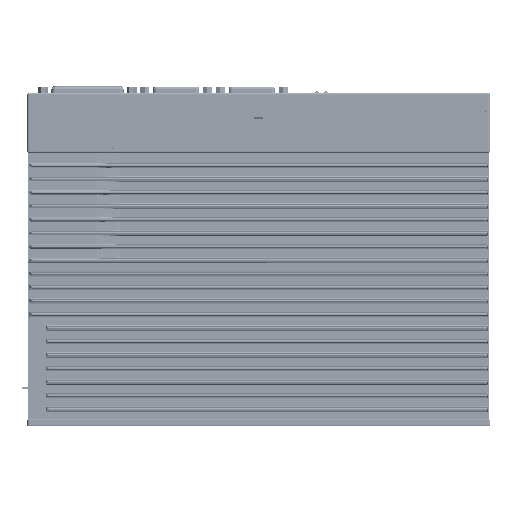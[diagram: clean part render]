
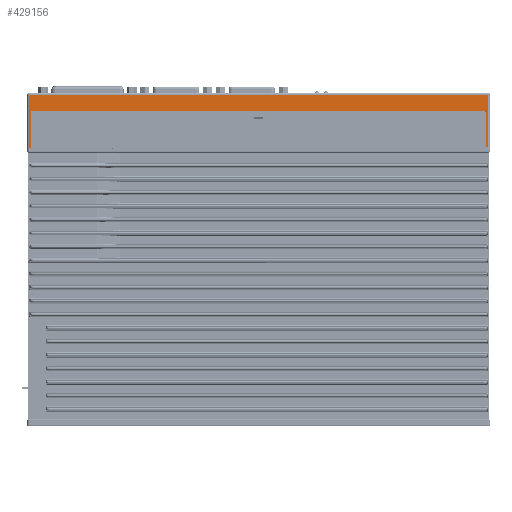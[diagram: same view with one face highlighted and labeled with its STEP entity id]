
A CAD part, front view. The second image highlights one B-rep face of the part: STEP entity #429156.
In plain terms, the highlighted planar face has unit normal (0, -1, 0) as drawn and (1, 0, 0) by its records, which use the part's own axes.
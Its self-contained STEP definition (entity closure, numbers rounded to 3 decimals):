
#396991=CARTESIAN_POINT('',(0.3,-65.,164.1));
#396992=VERTEX_POINT('',#396991);
#396999=CARTESIAN_POINT('',(0.3,-65.,144.4));
#397000=VERTEX_POINT('',#396999);
#397001=CARTESIAN_POINT('',(0.3,-65.,144.4));
#397002=DIRECTION('',(0.0,0.0,1.0));
#397003=VECTOR('',#397002,19.7);
#397004=LINE('',#397001,#397003);
#397005=EDGE_CURVE('',#397000,#396992,#397004,.T.);
#427333=CARTESIAN_POINT('',(0.3,177.,145.4));
#427334=VERTEX_POINT('',#427333);
#427341=CARTESIAN_POINT('',(0.3,177.,164.1));
#427342=VERTEX_POINT('',#427341);
#427343=CARTESIAN_POINT('',(0.3,177.,164.1));
#427344=DIRECTION('',(0.0,0.0,-1.0));
#427345=VECTOR('',#427344,18.7);
#427346=LINE('',#427343,#427345);
#427347=EDGE_CURVE('',#427342,#427334,#427346,.T.);
#428810=CARTESIAN_POINT('',(0.3,-65.982,144.4));
#428811=VERTEX_POINT('',#428810);
#428819=CARTESIAN_POINT('',(0.3,-65.982,173.082));
#428820=VERTEX_POINT('',#428819);
#428821=CARTESIAN_POINT('',(0.3,-65.982,144.4));
#428822=DIRECTION('',(0.0,0.0,1.0));
#428823=VECTOR('',#428822,28.682);
#428824=LINE('',#428821,#428823);
#428825=EDGE_CURVE('',#428811,#428820,#428824,.T.);
#428843=CARTESIAN_POINT('',(0.3,177.982,173.082));
#428844=VERTEX_POINT('',#428843);
#428860=CARTESIAN_POINT('',(0.3,-65.982,173.082));
#428861=DIRECTION('',(0.0,1.0,0.0));
#428862=VECTOR('',#428861,243.965);
#428863=LINE('',#428860,#428862);
#428864=EDGE_CURVE('',#428820,#428844,#428863,.T.);
#428891=CARTESIAN_POINT('',(0.3,177.982,145.4));
#428892=VERTEX_POINT('',#428891);
#428908=CARTESIAN_POINT('',(0.3,177.982,173.082));
#428909=DIRECTION('',(0.0,0.0,-1.0));
#428910=VECTOR('',#428909,27.682);
#428911=LINE('',#428908,#428910);
#428912=EDGE_CURVE('',#428844,#428892,#428911,.T.);
#429126=CARTESIAN_POINT('',(0.3,56.,0.0));
#429127=DIRECTION('',(1.0,0.0,0.0));
#429128=DIRECTION('',(0.0,0.0,-1.0));
#429129=AXIS2_PLACEMENT_3D('',#429126,#429127,#429128);
#429130=PLANE('',#429129);
#429131=ORIENTED_EDGE('',*,*,#428825,.F.);
#429132=CARTESIAN_POINT('',(0.3,-65.982,144.4));
#429133=DIRECTION('',(0.0,1.0,0.0));
#429134=VECTOR('',#429133,0.983);
#429135=LINE('',#429132,#429134);
#429136=EDGE_CURVE('',#428811,#397000,#429135,.T.);
#429137=ORIENTED_EDGE('',*,*,#429136,.T.);
#429138=ORIENTED_EDGE('',*,*,#397005,.T.);
#429139=CARTESIAN_POINT('',(0.3,177.,164.1));
#429140=DIRECTION('',(0.0,-1.0,0.0));
#429141=VECTOR('',#429140,241.999);
#429142=LINE('',#429139,#429141);
#429143=EDGE_CURVE('',#427342,#396992,#429142,.T.);
#429144=ORIENTED_EDGE('',*,*,#429143,.F.);
#429145=ORIENTED_EDGE('',*,*,#427347,.T.);
#429146=CARTESIAN_POINT('',(0.3,177.,145.4));
#429147=DIRECTION('',(0.0,1.0,0.0));
#429148=VECTOR('',#429147,0.983);
#429149=LINE('',#429146,#429148);
#429150=EDGE_CURVE('',#427334,#428892,#429149,.T.);
#429151=ORIENTED_EDGE('',*,*,#429150,.T.);
#429152=ORIENTED_EDGE('',*,*,#428912,.F.);
#429153=ORIENTED_EDGE('',*,*,#428864,.F.);
#429154=EDGE_LOOP('',(#429131,#429137,#429138,#429144,#429145,#429151,#429152,#429153));
#429155=FACE_OUTER_BOUND('',#429154,.T.);
#429156=ADVANCED_FACE('',(#429155),#429130,.T.);
